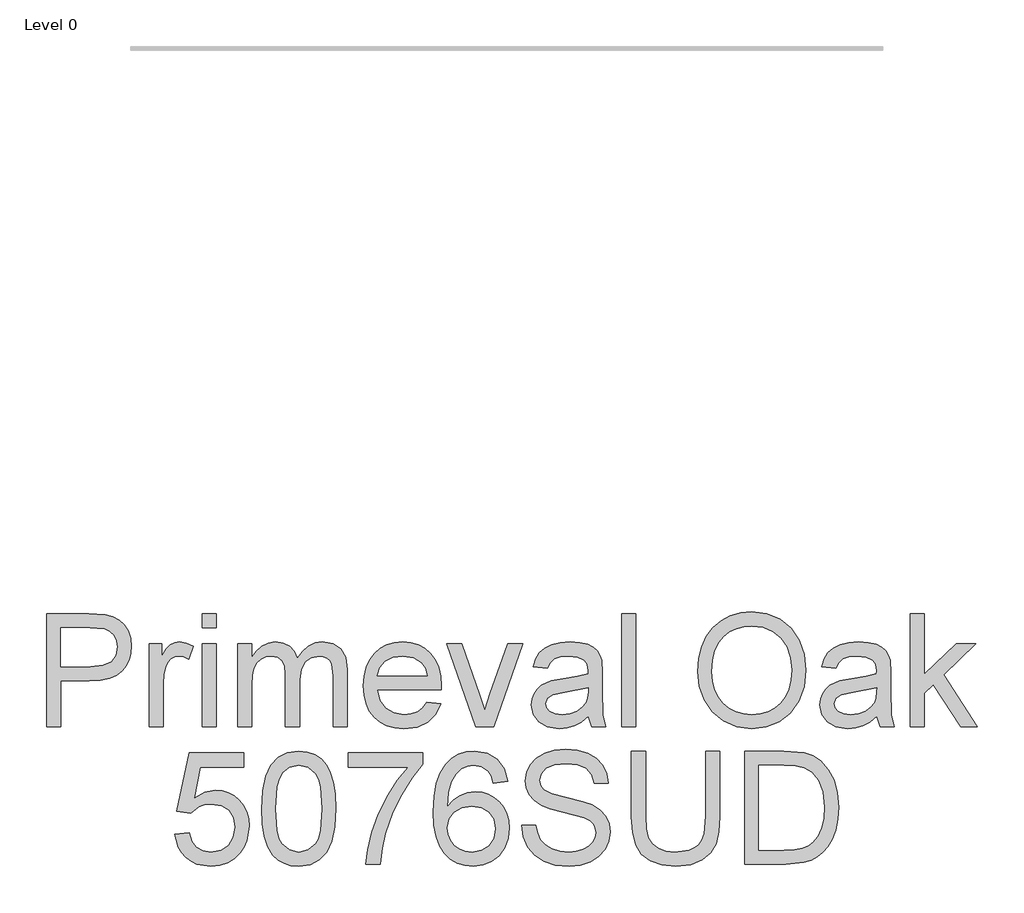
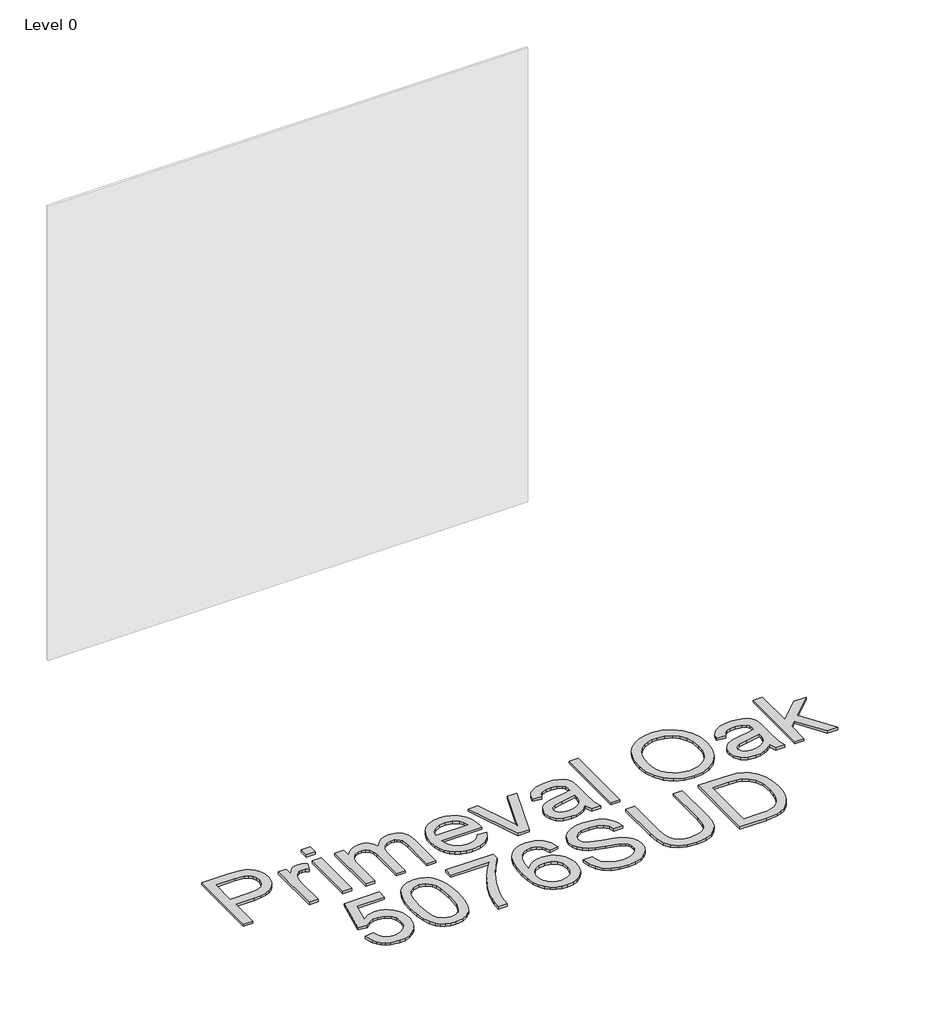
# One storey, part 2 of 7: 1 proxy.
"""IFC4 building model written with IfcOpenShell, lengths in millimetres."""

from ifc_helpers import new_model, si_unit, origin, origin_with_axes, place, context, project, spatial, polyline, outline, extrude, element, save

model = new_model("IFC4")

# Units and contexts
model_context = context("Model", 3, world=origin())
ifc_project = project(units=[si_unit("LENGTHUNIT", "METRE", prefix="MILLI")], contexts=[model_context])

# Site, building, storey
site = spatial("IfcSite", under=ifc_project)
building = spatial("IfcBuilding", under=site)
storey = spatial("IfcBuildingStorey", under=building, Name="Level 0", Elevation=0.0)

# Proxy
placement = place(None, origin())
element("IfcBuildingElementProxy", 1, Name="300mm Arial", ObjectType="300mm Arial", at=placement, inside=storey, context=model_context, shape_type="SweptSolid", body=[
    extrude(outline(polyline([(-10674.9693363, -7002.860494), (-10674.9693363, -6701.4915635), (-10563.2803625, -6701.4915635), (-10518.2516063, -6704.3610431), (-10498.1744464, -6709.7229232), (-10481.6473478, -6718.4509235), (-10468.3392166, -6730.9405172), (-10457.9189591, -6747.5871775), (-10451.1867186, -6767.222879), (-10448.9426384, -6788.6795964), (-10450.4578524, -6807.1794622), (-10455.0034943, -6824.198603), (-10462.5795641, -6839.7370188), (-10473.1860619, -6853.7947095), (-10487.7472911, -6865.4473717), (-10507.1875553, -6873.7707019), (-10531.5068544, -6878.7647), (-10560.7051886, -6880.429366), (-10637.2982199, -6880.429366), (-10637.2982199, -7002.860494), (-10674.9693363, -7002.860494)]), holes=[polyline([(-10637.2982199, -6842.7582497), (-10558.4978966, -6842.7582497), (-10525.0942114, -6839.3001589), (-10503.0212917, -6828.9258867), (-10490.715639, -6812.2792264), (-10486.6137547, -6790.0039716), (-10489.0325788, -6773.0813998), (-10496.2890512, -6758.8075784), (-10507.4818609, -6748.0654241), (-10521.7096971, -6741.7378538), (-10559.3808134, -6739.1626798), (-10637.2982199, -6739.1626798), (-10637.2982199, -6842.7582497)])]), origin_with_axes(), (0.0, 0.0, 1.0), 10.0),
    extrude(outline(polyline([(-10401.853743, -7002.860494), (-10401.853743, -6781.5426857), (-10368.8915163, -6781.5426857), (-10368.8915163, -6814.2841833), (-10356.7146222, -6795.3014723), (-10345.4942214, -6784.1178596), (-10334.2370323, -6778.654812), (-10321.9497737, -6776.8337961), (-10303.1877919, -6779.7400639), (-10284.1315046, -6788.4588672), (-10296.7130688, -6822.2304343), (-10309.9568206, -6816.4362929), (-10323.2005725, -6814.5049125), (-10334.4485645, -6816.3627165), (-10344.50094, -6821.9361288), (-10352.621935, -6830.8020848), (-10358.0757856, -6842.5375205), (-10362.6559165, -6863.5803706), (-10364.1826267, -6886.5362071), (-10364.1826267, -7002.860494), (-10401.853743, -7002.860494)])), origin_with_axes(), (0.0, 0.0, 1.0), 10.0),
    extrude(outline(polyline([(-10260.5870569, -7002.860494), (-10260.5870569, -6781.5426857), (-10222.9159406, -6781.5426857), (-10222.9159406, -7002.860494), (-10260.5870569, -7002.860494)])), origin_with_axes(), (0.0, 0.0, 1.0), 10.0),
    extrude(outline(polyline([(-10260.5870569, -6739.1626798), (-10260.5870569, -6701.4915635), (-10222.9159406, -6701.4915635), (-10222.9159406, -6739.1626798), (-10260.5870569, -6739.1626798)])), origin_with_axes(), (0.0, 0.0, 1.0), 10.0),
    extrude(outline(polyline([(-10166.4092661, -7002.860494), (-10166.4092661, -6781.5426857), (-10128.7381498, -6781.5426857), (-10128.7381498, -6817.9630032), (-10117.4073844, -6801.2335695), (-10102.8392574, -6788.1277734), (-10085.5304095, -6779.6572905), (-10065.9774814, -6776.8337961), (-10045.0266018, -6779.7124728), (-10028.2327887, -6788.3485026), (-10015.6880127, -6802.1716686), (-10007.4842442, -6820.6117536), (-9993.7530487, -6801.4588972), (-9978.0904728, -6787.7782855), (-9960.4965164, -6779.5699185), (-9940.9711795, -6776.8337961), (-9912.6534629, -6781.3863358), (-9891.7117803, -6795.0439549), (-9878.7715311, -6818.1745354), (-9874.4581148, -6851.1459592), (-9874.4581148, -7002.860494), (-9912.1292311, -7002.860494), (-9912.1292311, -6867.332767), (-9915.62411, -6835.8788564), (-9920.5353346, -6827.2060383), (-9928.2792506, -6820.3910244), (-9938.2396557, -6815.9764404), (-9949.8003474, -6814.5049125), (-9970.208601, -6818.2757029), (-9986.8460643, -6829.5880743), (-9997.9101153, -6849.2145787), (-10001.5981323, -6877.9277684), (-10001.5981323, -7002.860494), (-10039.2692486, -7002.860494), (-10039.2692486, -6863.1389122), (-10041.4489494, -6841.8385447), (-10047.9880519, -6826.6450183), (-10059.4935613, -6817.5399389), (-10076.5724829, -6814.5049125), (-10091.0854276, -6816.5282634), (-10104.4579381, -6822.5983163), (-10115.494398, -6832.5679184), (-10122.9991907, -6846.2899168), (-10127.30341, -6865.3278101), (-10128.7381498, -6891.2450966), (-10128.7381498, -7002.860494), (-10166.4092661, -7002.860494)])), origin_with_axes(), (0.0, 0.0, 1.0), 10.0),
    extrude(outline(polyline([(-9662.9995439, -6936.9360404), (-9626.0641916, -6941.64493), (-9639.3723228, -6969.4752029), (-9660.608311, -6990.2789297), (-9689.2939095, -7003.2467701), (-9724.9508719, -7007.5693835), (-9748.3251742, -7005.7046817), (-9769.1518936, -7000.1105761), (-9787.4310303, -6990.7870668), (-9803.1625841, -6977.7341537), (-9815.8131262, -6961.3151204), (-9824.8492277, -6941.8932503), (-9830.2708886, -6919.4685435), (-9832.0781089, -6894.0409998), (-9830.2524945, -6867.7512327), (-9824.7756513, -6844.5792656), (-9815.6475793, -6824.5250983), (-9802.8682785, -6807.5887309), (-9787.1781114, -6794.133447), (-9769.3174405, -6784.5225298), (-9749.2862659, -6778.7559796), (-9727.0845875, -6776.8337961), (-9705.5979797, -6778.751381), (-9686.1669126, -6784.5041357), (-9668.7913861, -6794.0920602), (-9653.4714002, -6807.5151545), (-9640.9657117, -6824.4147337), (-9632.033077, -6844.4321128), (-9626.6734962, -6867.5672917), (-9624.8869692, -6893.8202706), (-9625.1076984, -6903.9738137), (-9794.4069926, -6903.9738137), (-9787.8862842, -6932.1719686), (-9772.7387431, -6952.902119), (-9750.8773555, -6965.6492302), (-9724.2151079, -6969.8982672), (-9704.1655392, -6967.9300985), (-9687.2797556, -6962.0255925), (-9673.5577572, -6951.8168672), (-9662.9995439, -6936.9360404)]), holes=[polyline([(-9794.4069926, -6866.3026974), (-9662.5580855, -6866.3026974), (-9667.6532512, -6846.4002814), (-9677.6412473, -6832.1632482), (-9699.6038024, -6818.9194964), (-9727.2317403, -6814.5049125), (-9752.624795, -6818.0273826), (-9773.6216599, -6828.5947929), (-9788.217378, -6845.0667092), (-9794.4069926, -6866.3026974)])]), origin_with_axes(), (0.0, 0.0, 1.0), 10.0),
    extrude(outline(polyline([(-9532.9164704, -7002.860494), (-9610.7603006, -6781.5426857), (-9570.8818923, -6781.5426857), (-9523.7194205, -6914.1273567), (-9509.5191755, -6958.7146546), (-9495.6132361, -6916.6289543), (-9448.1564587, -6781.5426857), (-9408.2780505, -6781.5426857), (-9485.1653875, -7002.860494), (-9532.9164704, -7002.860494)])), origin_with_axes(), (0.0, 0.0, 1.0), 10.0),
    extrude(outline(polyline([(-9234.0491375, -6974.6071568), (-9252.0477642, -6990.0398064), (-9270.5798197, -7000.1381672), (-9290.0683684, -7005.7115794), (-9310.9364745, -7007.5693835), (-9342.4179763, -7003.0996173), (-9365.6405272, -6989.6903186), (-9379.9603339, -6969.3280501), (-9384.7336028, -6943.9993748), (-9382.930981, -6928.3827841), (-9377.5231157, -6914.2009331), (-9369.1813914, -6902.0608273), (-9358.5771929, -6892.5694718), (-9332.2000539, -6880.2086368), (-9299.6057091, -6874.5432541), (-9261.0884642, -6868.5835657), (-9234.2698667, -6861.5938078), (-9234.0491375, -6853.2060983), (-9236.6427056, -6836.3938912), (-9244.4234098, -6825.3942195), (-9261.8242282, -6817.2272392), (-9286.0676517, -6814.5049125), (-9308.5084534, -6816.3167313), (-9324.1802264, -6821.7521878), (-9334.8671983, -6831.8045633), (-9342.3535969, -6847.4671392), (-9380.0247132, -6842.7582497), (-9373.4856108, -6822.156858), (-9363.7275408, -6805.9700502), (-9349.8399955, -6793.590821), (-9330.9124669, -6784.4121652), (-9307.7634923, -6778.7283884), (-9281.2116093, -6776.8337961), (-9255.7449782, -6778.5076592), (-9235.5574537, -6783.5292485), (-9220.3363362, -6791.0800264), (-9209.7689259, -6800.3414556), (-9202.7607739, -6811.7917827), (-9198.2174312, -6825.9092543), (-9196.3780212, -6858.8714811), (-9196.3780212, -6905.7396473), (-9194.4650349, -6971.1858542), (-9186.9602422, -7002.860494), (-9224.6313585, -7002.860494), (-9234.0491375, -6974.6071568)]), holes=[polyline([(-9234.0491375, -6899.2649241), (-9294.8232432, -6910.8164188), (-9327.2336469, -6916.9232599), (-9341.9121385, -6926.8560738), (-9347.0624865, -6941.3506244), (-9344.2573863, -6952.5526311), (-9335.8420856, -6961.7312869), (-9322.0005255, -6967.8565221), (-9302.916647, -6969.8982672), (-9282.6831373, -6967.64499), (-9264.8040723, -6960.8851583), (-9250.3095217, -6950.9247533), (-9240.2295551, -6939.069756), (-9235.7597888, -6926.8560738), (-9234.2698667, -6909.933502), (-9234.0491375, -6899.2649241)])]), origin_with_axes(), (0.0, 0.0, 1.0), 10.0),
    extrude(outline(polyline([(-9144.5802363, -7002.860494), (-9144.5802363, -6701.4915635), (-9106.90912, -6701.4915635), (-9106.90912, -7002.860494), (-9144.5802363, -7002.860494)])), origin_with_axes(), (0.0, 0.0, 1.0), 10.0),
    extrude(outline(polyline([(-8942.0979862, -6856.1491543), (-8939.5871916, -6820.8002931), (-8932.0548077, -6789.5073309), (-8919.5008346, -6762.2702677), (-8901.9252723, -6739.0891034), (-8880.381183, -6720.5800406), (-8855.9216288, -6707.3592814), (-8828.5466098, -6699.4268258), (-8798.2561261, -6696.782674), (-8758.7272057, -6701.7490809), (-8723.2817754, -6716.6483017), (-8693.8512158, -6740.4318727), (-8672.3669073, -6772.0513302), (-8659.2335201, -6809.9799639), (-8654.8557243, -6852.6910636), (-8659.4634463, -6895.9723803), (-8673.2866123, -6934.4344429), (-8695.5618671, -6966.1090827), (-8725.5258556, -6989.028131), (-8760.6677832, -7002.9340704), (-8798.4768553, -7007.5693835), (-8838.6127809, -7002.4466267), (-8874.2605463, -6987.0783564), (-8903.6175295, -6962.853327), (-8924.8811088, -6931.1602931), (-8937.7937668, -6894.6939903), (-8942.0979862, -6856.1491543)]), holes=[polyline([(-8904.4268699, -6856.5170363), (-8902.5437739, -6881.4916252), (-8896.894486, -6903.661114), (-8887.4790062, -6923.0255025), (-8874.2973345, -6939.5847908), (-8858.2737743, -6952.8469367), (-8840.3326293, -6962.3198981), (-8820.4738993, -6968.0036749), (-8798.6975845, -6969.8982672), (-8776.5487891, -6967.9852808), (-8756.4555344, -6962.2463217), (-8738.4178203, -6952.6813898), (-8722.4356469, -6939.2904852), (-8709.3505441, -6922.381709), (-8700.0040422, -6902.2631624), (-8694.396141, -6878.9348454), (-8692.5268406, -6852.396758), (-8695.727414, -6819.0482551), (-8705.3291341, -6790.2247008), (-8721.0836805, -6766.6526619), (-8742.742733, -6749.0587055), (-8768.8715517, -6738.1050191), (-8798.0353969, -6734.4537903), (-8819.0552544, -6736.2127261), (-8838.5575986, -6741.4895335), (-8856.5424297, -6750.2842124), (-8873.0097475, -6762.5967629), (-8886.7547385, -6779.0203948), (-8896.5725893, -6800.1483176), (-8902.4632997, -6825.9805314), (-8904.4268699, -6856.5170363)])]), origin_with_axes(), (0.0, 0.0, 1.0), 10.0),
    extrude(outline(polyline([(-8466.5001428, -6974.6071568), (-8484.4987694, -6990.0398064), (-8503.0308249, -7000.1381672), (-8522.5193736, -7005.7115794), (-8543.3874798, -7007.5693835), (-8574.8689815, -7003.0996173), (-8598.0915325, -6989.6903186), (-8612.4113391, -6969.3280501), (-8617.184608, -6943.9993748), (-8615.3819863, -6928.3827841), (-8609.9741209, -6914.2009331), (-8601.6323967, -6902.0608273), (-8591.0281982, -6892.5694718), (-8564.6510591, -6880.2086368), (-8532.0567144, -6874.5432541), (-8493.5394695, -6868.5835657), (-8466.720872, -6861.5938078), (-8466.5001428, -6853.2060983), (-8469.0937109, -6836.3938912), (-8476.8744151, -6825.3942195), (-8494.2752334, -6817.2272392), (-8518.5186569, -6814.5049125), (-8540.9594586, -6816.3167313), (-8556.6312316, -6821.7521878), (-8567.3182036, -6831.8045633), (-8574.8046022, -6847.4671392), (-8612.4757185, -6842.7582497), (-8605.936616, -6822.156858), (-8596.1785461, -6805.9700502), (-8582.2910008, -6793.590821), (-8563.3634721, -6784.4121652), (-8540.2144976, -6778.7283884), (-8513.6626146, -6776.8337961), (-8488.1959835, -6778.5076592), (-8468.008459, -6783.5292485), (-8452.7873414, -6791.0800264), (-8442.2199311, -6800.3414556), (-8435.2117791, -6811.7917827), (-8430.6684365, -6825.9092543), (-8428.8290265, -6858.8714811), (-8428.8290265, -6905.7396473), (-8426.9160401, -6971.1858542), (-8419.4112474, -7002.860494), (-8457.0823637, -7002.860494), (-8466.5001428, -6974.6071568)]), holes=[polyline([(-8466.5001428, -6899.2649241), (-8527.2742484, -6910.8164188), (-8559.6846522, -6916.9232599), (-8574.3631438, -6926.8560738), (-8579.5134917, -6941.3506244), (-8576.7083915, -6952.5526311), (-8568.2930909, -6961.7312869), (-8554.4515308, -6967.8565221), (-8535.3676523, -6969.8982672), (-8515.1341426, -6967.64499), (-8497.2550776, -6960.8851583), (-8482.760527, -6950.9247533), (-8472.6805603, -6939.069756), (-8468.2107941, -6926.8560738), (-8466.720872, -6909.933502), (-8466.5001428, -6899.2649241)])]), origin_with_axes(), (0.0, 0.0, 1.0), 10.0),
    extrude(outline(polyline([(-8377.0312416, -7002.860494), (-8377.0312416, -6701.4915635), (-8339.3601253, -6701.4915635), (-8339.3601253, -6863.4332178), (-8254.8944192, -6781.5426857), (-8202.8023287, -6781.5426857), (-8288.2981043, -6864.4632874), (-8198.0934391, -7002.860494), (-8242.0921258, -7002.860494), (-8315.3006428, -6890.6564855), (-8339.3601253, -6913.9802039), (-8339.3601253, -7002.860494), (-8377.0312416, -7002.860494)])), origin_with_axes(), (0.0, 0.0, 1.0), 10.0),
    extrude(outline(polyline([(-10333.5748447, -7288.7338254), (-10295.9037284, -7284.0249358), (-10288.9875469, -7306.6404815), (-10276.9210175, -7322.8364863), (-10259.7593224, -7332.5761621), (-10237.557644, -7335.8227207), (-10210.5551055, -7331.3069693), (-10190.3215958, -7317.7597148), (-10177.6848493, -7296.7444558), (-10173.4726004, -7269.8246908), (-10177.4181348, -7244.4776213), (-10189.254738, -7225.0902402), (-10209.0743805, -7212.7845875), (-10236.9690328, -7208.6827032), (-10255.2435709, -7210.3197781), (-10270.0416242, -7215.2310027), (-10291.1948389, -7232.2271509), (-10328.8659552, -7227.5182614), (-10295.9037284, -7072.1249066), (-10149.9281527, -7072.1249066), (-10149.9281527, -7109.7960229), (-10265.4430992, -7109.7960229), (-10281.5563306, -7192.790201), (-10254.6457627, -7176.4562404), (-10226.4476077, -7171.0115869), (-10208.1017925, -7172.6992456), (-10191.2504978, -7177.7622215), (-10175.8937238, -7186.2005148), (-10162.0314704, -7198.0141254), (-10150.5558514, -7212.4810848), (-10142.3589807, -7228.8794248), (-10137.4408583, -7247.2091452), (-10135.8014841, -7267.470246), (-10141.7059901, -7305.1413624), (-10149.0866227, -7321.9351754), (-10159.4195082, -7337.3678251), (-10175.0728871, -7353.1729553), (-10193.3382282, -7364.4623341), (-10214.2155314, -7371.2359613), (-10237.7047968, -7373.4938371), (-10274.7045285, -7367.6904986), (-10290.3831992, -7360.4363255), (-10304.1810733, -7350.2804832), (-10315.6612908, -7337.7288093), (-10324.3869919, -7323.2871418), (-10333.5748447, -7288.7338254)])), origin_with_axes(), (0.0, 0.0, 1.0), 10.0),
    extrude(outline(polyline([(-10102.8392574, -7220.5285035), (-10100.0709453, -7172.2899768), (-10091.7660093, -7133.8187172), (-10078.0072227, -7104.5261133), (-10058.8773589, -7083.8235541), (-10034.2384623, -7071.5179013), (-10003.9525771, -7067.4160171), (-9980.7392232, -7069.8440382), (-9959.9538904, -7077.1281017), (-9942.5714662, -7088.983099), (-9929.5668376, -7105.1239216), (-9919.7443884, -7125.4126136), (-9911.9085019, -7149.7112194), (-9906.776548, -7180.5673217), (-9905.0658967, -7220.5285035), (-9907.8066176, -7268.4911186), (-9916.0287802, -7306.8704077), (-9929.7047934, -7336.1906027), (-9948.807066, -7356.9759355), (-9973.5011449, -7369.3643617), (-10003.9525771, -7373.4938371), (-10024.7011216, -7371.7004123), (-10043.0952213, -7366.3201381), (-10059.1348763, -7357.3530145), (-10072.8200866, -7344.7990414), (-10085.9534738, -7322.1053209), (-10095.3344647, -7293.828991), (-10100.9630592, -7259.9700519), (-10102.8392574, -7220.5285035)]), holes=[polyline([(-10065.1681411, -7220.4549271), (-10060.7535571, -7279.7115194), (-10055.2353272, -7299.9795181), (-10047.5098053, -7314.0073184), (-10027.7913303, -7330.3688702), (-10003.9525771, -7335.8227207), (-9980.1138238, -7330.3504761), (-9960.3953488, -7313.933742), (-9952.6698269, -7299.8829491), (-9947.151597, -7279.6195489), (-9942.7370131, -7220.4549271), (-9947.0044442, -7162.5319069), (-9952.3387331, -7142.3305869), (-9959.8067376, -7127.9693935), (-9979.4884244, -7110.8076984), (-10004.3940354, -7105.0871334), (-10027.9752713, -7110.1271167), (-10046.9211941, -7125.2470667), (-10054.9042334, -7140.8820515), (-10060.6064043, -7161.9616898), (-10065.1681411, -7220.4549271)])]), origin_with_axes(), (0.0, 0.0, 1.0), 10.0),
    extrude(outline(polyline([(-9872.10367, -7109.7960229), (-9872.10367, -7072.1249066), (-9674.3303094, -7072.1249066), (-9674.3303094, -7102.5855358), (-9702.5192673, -7138.2608923), (-9730.4323136, -7183.6299393), (-9755.0528162, -7234.5540045), (-9773.3641425, -7286.8944154), (-9782.3404632, -7326.0554538), (-9787.3436583, -7368.7849475), (-9825.0147746, -7368.7849475), (-9820.9404815, -7329.9550029), (-9810.0419774, -7283.8042066), (-9792.6135679, -7234.8850983), (-9768.9495585, -7187.7502177), (-9741.3216207, -7145.1402856), (-9712.0014257, -7109.7960229), (-9872.10367, -7109.7960229)])), origin_with_axes(), (0.0, 0.0, 1.0), 10.0),
    extrude(outline(polyline([(-9448.3036115, -7147.4671392), (-9485.9747278, -7152.1760288), (-9492.0447808, -7133.5060175), (-9500.2485493, -7120.7589064), (-9517.3366679, -7109.0050766), (-9537.993242, -7105.0871334), (-9555.5044249, -7107.3680017), (-9571.9855383, -7114.2106069), (-9586.1397981, -7128.622384), (-9597.7004898, -7148.4604206), (-9605.5087851, -7176.5206198), (-9608.4058558, -7215.5988847), (-9593.2951029, -7197.9681401), (-9575.1861117, -7185.5429257), (-9555.0905577, -7178.1760888), (-9534.0201164, -7175.7204764), (-9515.9203223, -7177.3989381), (-9499.2184797, -7182.4343229), (-9483.9145887, -7190.8266309), (-9470.0086493, -7202.5758621), (-9458.4525561, -7216.9830407), (-9450.1982038, -7233.349191), (-9445.2455925, -7251.6743129), (-9443.594722, -7271.9584064), (-9446.7033249, -7298.9333537), (-9456.0291334, -7323.9401323), (-9470.7995955, -7345.1485293), (-9490.242159, -7360.7283318), (-9513.473907, -7370.3024607), (-9539.6119227, -7373.4938371), (-9562.0688193, -7371.3785156), (-9582.3506135, -7365.0325512), (-9600.4573055, -7354.4559438), (-9616.3888951, -7339.6486935), (-9629.3774288, -7319.9854009), (-9638.6549529, -7294.8406665), (-9644.2214673, -7264.2144904), (-9646.0769721, -7228.1068726), (-9644.016833, -7187.6260575), (-9637.8364155, -7153.0773396), (-9627.5357196, -7124.4607189), (-9613.1147454, -7101.7761954), (-9597.4843591, -7086.7436174), (-9579.3615723, -7076.0060617), (-9558.746385, -7069.5635282), (-9535.6387972, -7067.4160171), (-9502.5845999, -7072.7319119), (-9476.1154904, -7088.6795964), (-9457.5742378, -7114.0082718), (-9448.3036115, -7147.4671392)]), holes=[polyline([(-9608.4058558, -7271.3697952), (-9606.226155, -7288.0624407), (-9599.6870526, -7304.0009282), (-9589.5335095, -7317.7045325), (-9576.5104869, -7327.6925287), (-9560.7927286, -7333.7901727), (-9542.5549787, -7335.8227207), (-9517.6953529, -7331.6104719), (-9498.1516219, -7318.9737254), (-9485.4872842, -7299.1080976), (-9481.2658383, -7273.2092052), (-9485.4321019, -7248.3495793), (-9497.9308927, -7229.3944595), (-9517.8057175, -7217.3923095), (-9544.1000831, -7213.3915928), (-9568.9229207, -7217.3923095), (-9589.6806623, -7229.3944595), (-9603.7245575, -7247.8897269), (-9608.4058558, -7271.3697952)])]), origin_with_axes(), (0.0, 0.0, 1.0), 10.0),
    extrude(outline(polyline([(-9410.6324952, -7265.1893777), (-9372.9613789, -7265.1893777), (-9368.6387655, -7286.0942721), (-9360.8212731, -7302.8972822), (-9348.6259849, -7316.2330045), (-9331.1699843, -7326.7360355), (-9309.8328286, -7333.5510494), (-9285.9940753, -7335.8227207), (-9265.0064074, -7334.1028724), (-9246.6307018, -7328.9433274), (-9231.740678, -7320.7763471), (-9221.2100559, -7310.0341929), (-9214.9468649, -7297.700949), (-9212.8591346, -7284.7606998), (-9214.4226331, -7272.1515444), (-9219.1131285, -7261.2530403), (-9228.6412722, -7251.9548229), (-9244.7177154, -7244.1465276), (-9299.5689209, -7229.7623415), (-9335.5753712, -7220.2433949), (-9358.6139811, -7211.1843008), (-9377.3667658, -7198.510766), (-9390.6565029, -7183.1516928), (-9398.5751628, -7165.4381747), (-9401.2147162, -7145.7013056), (-9397.9497634, -7123.637583), (-9388.1549053, -7103.0637824), (-9372.0876592, -7085.6261758), (-9350.0055424, -7072.9710352), (-9323.4996447, -7065.2731044), (-9294.1610556, -7062.7071275), (-9262.3760512, -7065.3926661), (-9234.5641723, -7073.4492818), (-9211.7187004, -7086.7114277), (-9194.8329169, -7105.013557), (-9184.1459449, -7127.2152354), (-9179.8969079, -7152.1760288), (-9217.5680242, -7152.1760288), (-9224.4842057, -7129.6984389), (-9238.9051799, -7113.4748429), (-9261.4379521, -7103.6523936), (-9292.6895276, -7100.3782438), (-9324.6768671, -7103.6156054), (-9346.6210281, -7113.3276901), (-9359.3129569, -7127.6199056), (-9363.5435998, -7144.5976597), (-9360.5453616, -7159.0738162), (-9351.5506468, -7170.7172813), (-9330.2870675, -7181.1283418), (-9290.0407772, -7191.7601314), (-9248.5069, -7201.8584922), (-9223.3805597, -7210.669266), (-9201.9054482, -7224.3360821), (-9186.923454, -7241.2034716), (-9178.1218772, -7261.0874934), (-9175.1880183, -7283.8042066), (-9178.5633356, -7307.0267576), (-9188.6892875, -7328.869751), (-9205.1520068, -7347.668521), (-9227.5376262, -7361.7584014), (-9254.4573912, -7370.5599781), (-9284.5225473, -7373.4938371), (-9321.4303085, -7370.3300519), (-9351.8081642, -7360.8386964), (-9376.0056024, -7344.9829824), (-9394.372111, -7322.7261217), (-9406.162729, -7295.6132187), (-9410.6324952, -7265.1893777)])), origin_with_axes(), (0.0, 0.0, 1.0), 10.0),
    extrude(outline(polyline([(-8920.9079833, -7067.4160171), (-8883.2368669, -7067.4160171), (-8883.2368669, -7241.277048), (-8885.7936468, -7281.9923878), (-8893.4639864, -7313.3451308), (-8907.7929901, -7337.533372), (-8930.3257623, -7356.7552063), (-8961.1174853, -7369.3091794), (-9000.2233414, -7373.4938371), (-9038.4738719, -7369.8518053), (-9069.0540627, -7358.92571), (-9091.973111, -7341.0926303), (-9107.2402138, -7316.7296452), (-9115.8210613, -7284.052527), (-9118.6813439, -7241.277048), (-9118.6813439, -7067.4160171), (-9081.0102276, -7067.4160171), (-9081.0102276, -7239.9526728), (-9079.1524235, -7273.8070134), (-9073.5790113, -7297.3790523), (-9063.4806505, -7313.7038158), (-9048.0480008, -7325.8163305), (-9027.9248556, -7333.3211232), (-9003.7550086, -7335.8227207), (-8965.4400988, -7330.8747079), (-8951.0972995, -7324.6896919), (-8939.9642706, -7316.0306694), (-8931.6271449, -7303.8537754), (-8925.6720551, -7287.1151446), (-8920.9079833, -7239.9526728), (-8920.9079833, -7067.4160171)])), origin_with_axes(), (0.0, 0.0, 1.0), 10.0),
    extrude(outline(polyline([(-8817.3124134, -7368.7849475), (-8817.3124134, -7067.4160171), (-8713.3489616, -7067.4160171), (-8659.5646139, -7071.7570246), (-8635.5419196, -7080.12634), (-8615.2716217, -7093.3149095), (-8594.4311066, -7116.270746), (-8579.5870681, -7144.8183889), (-8570.7027179, -7178.406015), (-8567.7412679, -7216.4818015), (-8569.7462248, -7248.8278259), (-8575.7610954, -7277.2926953), (-8584.9213571, -7301.5269217), (-8596.3624871, -7321.1810173), (-8609.5326625, -7336.6964405), (-8623.8800603, -7348.5146496), (-8640.3519767, -7357.2794381), (-8659.8957077, -7363.6345996), (-8708.3457664, -7368.7849475), (-8817.3124134, -7368.7849475)]), holes=[polyline([(-8779.6412971, -7331.1138312), (-8712.9810796, -7331.1138312), (-8685.408324, -7329.7526678), (-8664.4942326, -7325.6691777), (-8648.712095, -7319.1024841), (-8636.535201, -7310.2917103), (-8623.447799, -7293.9853408), (-8613.6161527, -7272.8781114), (-8607.4633263, -7246.8780514), (-8605.4123842, -7215.8931903), (-8609.431495, -7174.8375597), (-8621.4888274, -7144.5240833), (-8639.303513, -7123.7019623), (-8660.5946835, -7111.1203981), (-8682.262933, -7106.5954496), (-8714.0111492, -7105.0871334), (-8779.6412971, -7105.0871334), (-8779.6412971, -7331.1138312)])]), origin_with_axes(), (0.0, 0.0, 1.0), 10.0),
])

save(model, "model.ifc")
